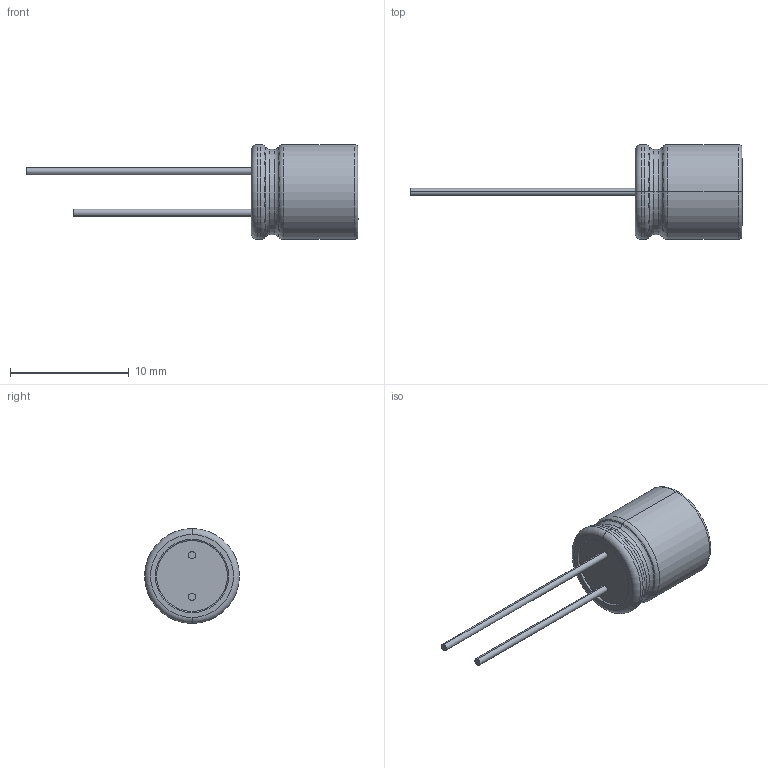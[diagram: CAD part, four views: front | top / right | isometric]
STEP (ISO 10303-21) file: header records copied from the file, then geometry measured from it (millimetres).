
FILE_DESCRIPTION((''),'2;1');
FILE_NAME('POLYMER-RADIAL8X9','2020-06-03T',('xy'),(''),'PRO/ENGINEER BY PARAMETRIC TECHNOLOGY CORPORATION, 2009380','PRO/ENGINEER BY PARAMETRIC TECHNOLOGY CORPORATION, 2009380','');
FILE_SCHEMA(('CONFIG_CONTROL_DESIGN'));
Length unit declared in the file: millimetre
Products named in the file (1): POLYMER-RADIAL8X9
Bounding box: 28 x 8 x 8 mm (x, y, z)
Volume: 443.6 mm3; surface area: 389.5 mm2
Topology: 1 solids, 1 shells, 419 faces, 1154 edges, 762 vertices
Faces by surface type: plane 387, torus 15, cylinder 13, cone 4
Entity records: 13110 total; most frequent: CARTESIAN_POINT 2345, ORIENTED_EDGE 2308, DIRECTION 2044, EDGE_CURVE 1154, VECTOR 1098, LINE 1098, VERTEX_POINT 762, AXIS2_PLACEMENT_3D 473
